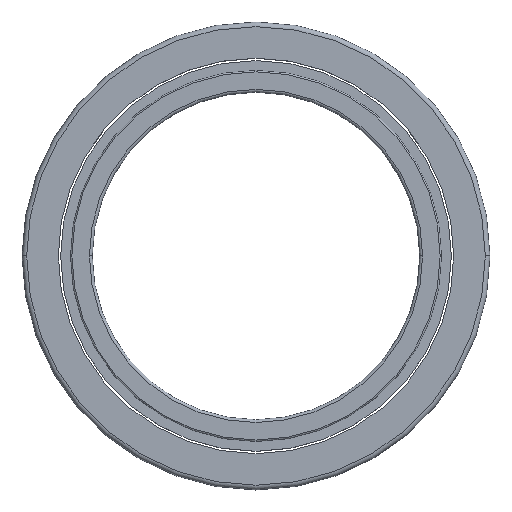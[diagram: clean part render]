
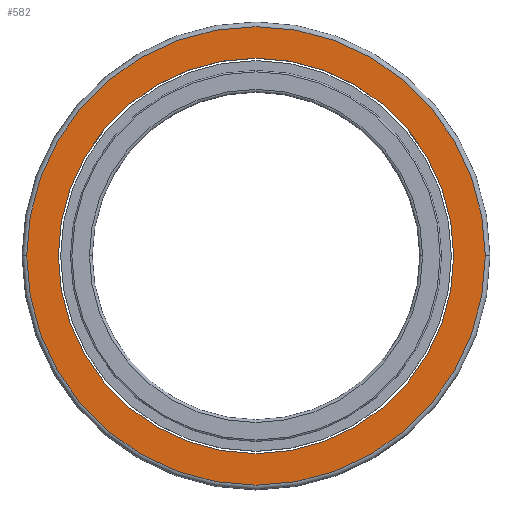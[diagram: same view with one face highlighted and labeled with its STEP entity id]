
A CAD part, top view. The second image highlights one B-rep face of the part: STEP entity #582.
In plain terms, the highlighted planar face has unit normal (0, 0, 1).
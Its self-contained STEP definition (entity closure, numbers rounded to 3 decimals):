
#55=CARTESIAN_POINT('',(0.,0.,6.5));
#56=DIRECTION('',(0.,0.,1.));
#57=DIRECTION('',(-1.,0.,0.));
#58=AXIS2_PLACEMENT_3D('',#55,#56,#57);
#64=CARTESIAN_POINT('',(0.,0.,6.5));
#65=DIRECTION('',(0.,0.,-1.));
#66=DIRECTION('',(-1.,0.,0.));
#67=AXIS2_PLACEMENT_3D('',#64,#65,#66);
#73=CARTESIAN_POINT('',(0.,0.,6.5));
#74=DIRECTION('',(0.,0.,1.));
#75=DIRECTION('',(-1.,0.,0.));
#76=AXIS2_PLACEMENT_3D('',#73,#74,#75);
#78=CARTESIAN_POINT('',(0.,0.,6.5));
#79=DIRECTION('',(0.,0.,-1.));
#80=DIRECTION('',(-1.,0.,0.));
#81=AXIS2_PLACEMENT_3D('',#78,#79,#80);
#379=CARTESIAN_POINT('',(-49.,0.,6.5));
#380=VERTEX_POINT('',#379);
#381=CARTESIAN_POINT('',(-42.25,0.,6.5));
#383=VERTEX_POINT('',#381);
#421=CARTESIAN_POINT('',(49.,0.,6.5));
#422=VERTEX_POINT('',#421);
#423=CARTESIAN_POINT('',(42.25,0.,6.5));
#425=VERTEX_POINT('',#423);
#567=CARTESIAN_POINT('',(0.,0.,6.5));
#568=DIRECTION('',(0.,0.,1.));
#569=DIRECTION('',(-1.,0.,0.));
#570=AXIS2_PLACEMENT_3D('',#567,#568,#569);
#571=PLANE('',#570);
#573=ORIENTED_EDGE('',*,*,#572,.F.);
#575=ORIENTED_EDGE('',*,*,#574,.T.);
#576=EDGE_LOOP('',(#573,#575));
#577=FACE_OUTER_BOUND('',#576,.F.);
#578=ORIENTED_EDGE('',*,*,#553,.F.);
#579=ORIENTED_EDGE('',*,*,#535,.T.);
#580=EDGE_LOOP('',(#578,#579));
#581=FACE_BOUND('',#580,.F.);
#59=CIRCLE('',#58,42.25);
#68=CIRCLE('',#67,42.25);
#77=CIRCLE('',#76,49.);
#82=CIRCLE('',#81,49.);
#535=EDGE_CURVE('',#383,#425,#59,.T.);
#553=EDGE_CURVE('',#383,#425,#68,.T.);
#572=EDGE_CURVE('',#380,#422,#77,.T.);
#574=EDGE_CURVE('',#380,#422,#82,.T.);
#582=ADVANCED_FACE('',(#577,#581),#571,.T.);
